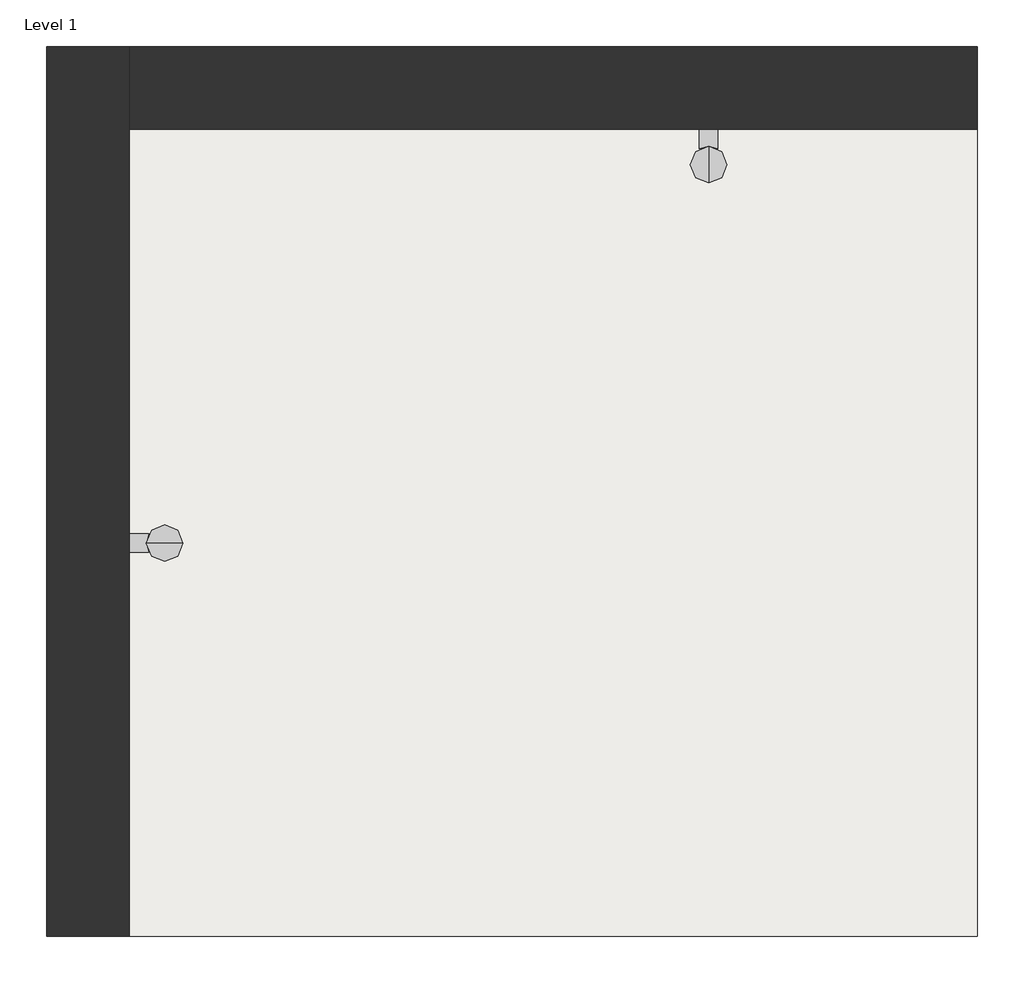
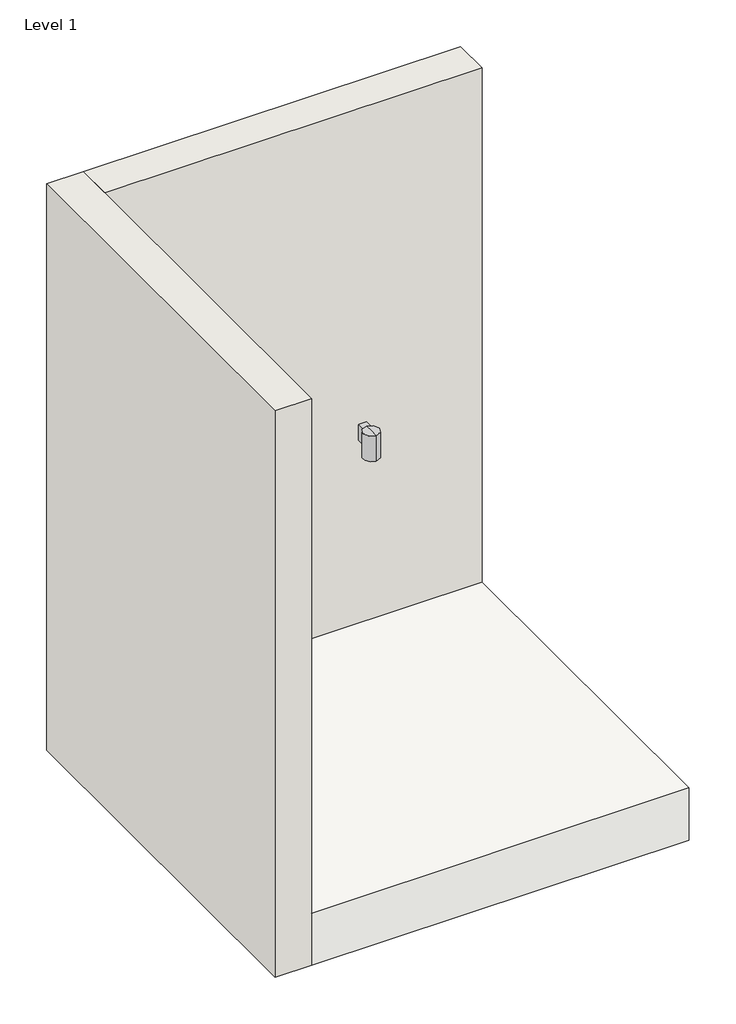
# One storey: 2 light fixtures, 2 walls, 1 slab.
"""IFC4 building model written with IfcOpenShell, lengths in millimetres."""

from ifc_helpers import new_model, si_unit, frame, origin, place, context, project, spatial, polyline, outline, extrude, faceted_brep, transform, mapped, element, save
from components import light_fixture_c68d3dd1, light_fixture_ac3ce4d8

model = new_model("IFC4")

# Units and contexts
model_context = context("Model", 3, world=origin())
ifc_project = project(units=[si_unit("LENGTHUNIT", "METRE", prefix="MILLI")], contexts=[model_context])

# Site, building, storey
site = spatial("IfcSite", under=ifc_project)
building = spatial("IfcBuilding", under=site)
storey = spatial("IfcBuildingStorey", under=building, Name="Level 1", Elevation=0.0)

# Light fixtures
placement = place(None, origin())
light_fixture_shape = light_fixture_c68d3dd1(model_context)
element("IfcLightFixture", 1, ObjectType="WD1340 _4 Round 1-Direction Wall Mount_IP65 - 1000Lm : WD1340B-B02-EU-T17-EMAC", at=placement, inside=storey, context=model_context, shape_type="MappedRepresentation", body=[
    mapped(light_fixture_shape, transform((2174.4683535, 2725.7404022, 1016.0), x_axis=(0.0, 1.0000000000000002, 0.0), y_axis=(-1.0000000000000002, 0.0, 0.0), z_axis=(0.0, 0.0, 1.0))),
])
light_fixture_2_shape = light_fixture_ac3ce4d8(model_context)
element("IfcLightFixture", 2, ObjectType="WD1340 _4 Round 1-Direction Wall Mount_IP65 - 1000Lm_Wall-based family : WD1340B-B02-EU-T17-EMAC_Wall-based family", at=placement, inside=storey, context=model_context, shape_type="MappedRepresentation", body=[
    mapped(light_fixture_2_shape, transform((3755.6676417, 3843.3404022, 1016.0), x_axis=(-1.0, 0.0, 0.0), y_axis=(0.0, -1.0, 0.0), z_axis=(0.0, 0.0, 1.0))),
])

# Slab
element("IfcSlab", 3, ObjectType="Floor 1", at=placement, inside=storey, context=model_context, shape_type="SweptSolid", body=[
    extrude(outline(polyline([(4291.0676417, 3741.7404022), (4291.0676417, 1760.5404022), (2208.2676417, 1760.5404022), (2208.2676417, 3741.7404022), (4291.0676417, 3741.7404022)])), frame((0.0, 0.0, -304.8), z_axis=(0.0, 0.0, 1.0), x_axis=(1.0, 0.0, 0.0)), (0.0, 0.0, 1.0), 304.8),
])

# Walls
element("IfcWall", 4, ObjectType="Wall 1", at=placement, inside=storey, context=model_context, shape_type="Brep", body=[
    faceted_brep([(2005.0676417, 3944.9404022, -304.8), (2005.0676417, 1760.5404022, -304.8), (2005.0676417, 1760.5404022, 3000.0), (2005.0676417, 3944.9404022, 3000.0), (2208.2676417, 3944.9404022, -304.8), (2208.2676417, 3944.9404022, 3000.0), (2208.2676417, 3741.7404022, 3000.0), (2208.2676417, 1760.5404022, 3000.0), (2208.2676417, 1760.5404022, -304.8), (2208.2676417, 3741.7404022, -304.8)], [[[0, 1, 2, 3]], [[4, 5, 6, 7, 8, 9]], [[1, 0, 4, 9, 8]], [[2, 1, 8, 7]], [[3, 2, 7, 6, 5]], [[0, 3, 5, 4]]]),
])
element("IfcWall", 5, ObjectType="Wall 1", at=placement, inside=storey, context=model_context, shape_type="SweptSolid", body=[
    extrude(outline(polyline([(4291.0676417, 3741.7404022), (2208.2676417, 3741.7404022), (2208.2676417, 3944.9404022), (4291.0676417, 3944.9404022), (4291.0676417, 3741.7404022)])), frame((0.0, 0.0, -304.8), z_axis=(0.0, 0.0, 1.0), x_axis=(1.0, 0.0, 0.0)), (0.0, 0.0, 1.0), 3304.8),
])

save(model, "model.ifc")
